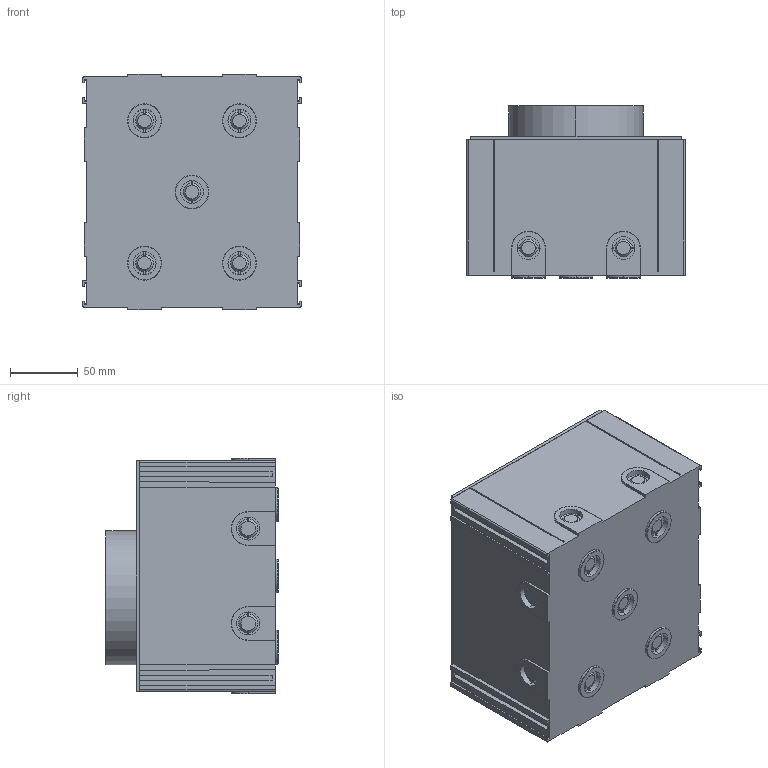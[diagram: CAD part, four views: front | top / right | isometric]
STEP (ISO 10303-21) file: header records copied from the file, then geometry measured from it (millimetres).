
FILE_DESCRIPTION(/* description */ (''),/* implementation_level */ '2;1');
FILE_NAME(/* name */ 'C:\Users\Franco Sartori E\Documents\FARO\DUPLICADO\Modelos\01_Digitalizados\0_TRAS\03_Publicación\71703.stp',/* time_stamp */ '2020-07-24T13:04:24+02:00',/* author */ ('Franco Sartori E'),/* organization */ (''),/* preprocessor_version */ 'ST-DEVELOPER v18',/* originating_system */ 'AutoCAD Mechanical',/* authorisation */ '');
FILE_SCHEMA (('AUTOMOTIVE_DESIGN { 1 0 10303 214 3 1 1 }'));
Length unit declared in the file: millimetre
Products named in the file (2): Product; 71703 - 71703 TRAS-401612-_3D_
Assembly tree (1 placements, depth 2):
  Product
    71703 - 71703 TRAS-401612-_3D_
Bounding box: 161 x 127 x 174 mm (x, y, z)
Volume: 69621.2 mm3; surface area: 273791.7 mm2
Topology: 1 solids, 2 shells, 448 faces, 1242 edges, 814 vertices
Faces by surface type: plane 332, cylinder 72, cone 44
Entity records: 14933 total; most frequent: CARTESIAN_POINT 3307, ORIENTED_EDGE 2460, DIRECTION 2394, EDGE_CURVE 1242, LINE 872, VECTOR 872, VERTEX_POINT 814, AXIS2_PLACEMENT_3D 761
